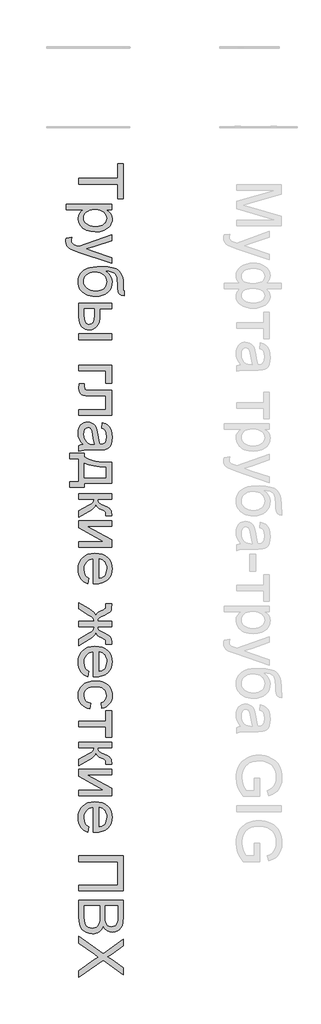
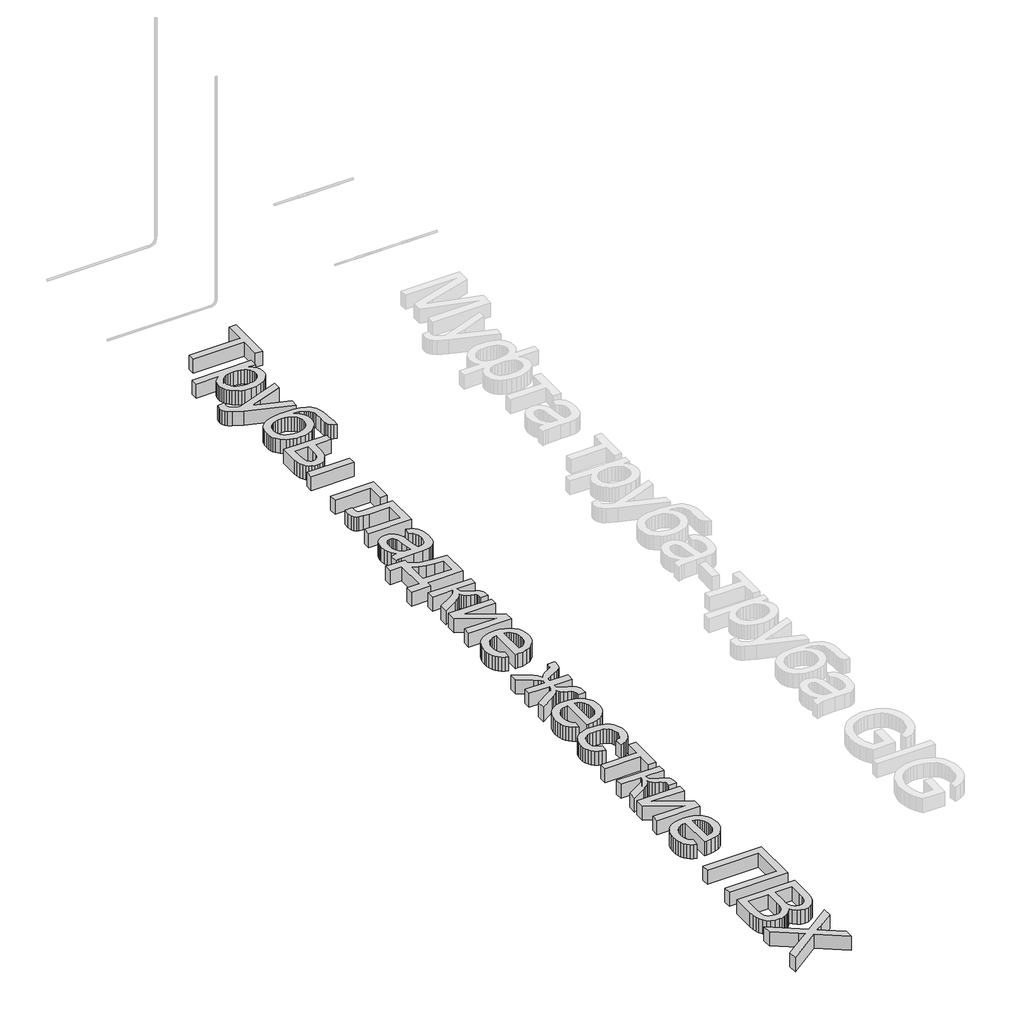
# One storey, part 11 of 33: 1 proxy.
"""IFC4 building model written with IfcOpenShell, lengths in millimetres."""

from ifc_helpers import new_model, si_unit, origin, origin_with_axes, place, context, project, spatial, polyline, outline, extrude, element, save

model = new_model("IFC4")

# Units and contexts
model_context = context("Model", 3, world=origin())
ifc_project = project(units=[si_unit("LENGTHUNIT", "METRE", prefix="MILLI")], contexts=[model_context])

# Site, building, storey
site = spatial("IfcSite", under=ifc_project)
building = spatial("IfcBuilding", under=site)
storey = spatial("IfcBuildingStorey", under=building, Name="Уровень 1", Elevation=0.0)

# Proxy
placement = place(None, origin())
element("IfcBuildingElementProxy", 1, Name="Надпись на модели 1", ObjectType="Надпись на модели 1", at=placement, inside=storey, context=model_context, shape_type="SweptSolid", body=[
    extrude(outline(polyline([(3124.4625724, -714.6440607), (3641.3856493, -714.6440607), (3641.3856493, -520.7979069), (3715.2318032, -520.7979069), (3715.2318032, -982.3363684), (3641.3856493, -982.3363684), (3641.3856493, -788.4902146), (3124.4625724, -788.4902146), (3124.4625724, -714.6440607)])), origin_with_axes(), (0.0, 0.0, 1.0), 150.0),
    extrude(outline(polyline([(2958.3087262, -1056.1825223), (3558.3087262, -1056.1825223), (3558.3087262, -1130.0286761), (3485.9048801, -1130.0286761), (3521.6200243, -1154.1152146), (3547.1308416, -1181.0863684), (3562.437332, -1212.5286761), (3567.5394955, -1250.0286761), (3565.7546397, -1275.7828829), (3560.4000724, -1299.96858), (3551.4757936, -1322.5857675), (3538.9818032, -1343.6344454), (3523.2426205, -1362.6548781), (3504.5827647, -1379.18733), (3483.0022359, -1393.2318011), (3458.5010339, -1404.7882915), (3404.0899762, -1420.2570415), (3344.702957, -1425.4132915), (3281.5479089, -1419.5899742), (3252.4718873, -1412.3108276), (3225.0635339, -1402.1200223), (3200.0394955, -1389.1572819), (3178.1164186, -1373.56233), (3159.2943032, -1355.3351665), (3143.5731493, -1334.4757915), (3131.1738104, -1312.007342), (3122.3171397, -1288.952955), (3117.0031373, -1265.3126305), (3115.2318032, -1241.0863684), (3119.9733897, -1207.1380511), (3134.1981493, -1176.8315607), (3155.6705051, -1150.8880511), (3182.1548801, -1130.0286761), (2958.3087262, -1130.0286761), (2958.3087262, -1056.1825223)]), holes=[polyline([(3337.9241109, -1130.0286761), (3302.3351686, -1132.0253708), (3271.7221878, -1138.015455), (3246.0851686, -1147.9989285), (3225.4241109, -1161.9757915), (3209.5226686, -1178.8012122), (3198.1644955, -1197.3303588), (3191.3495916, -1217.5632314), (3189.077957, -1239.49983), (3191.4307214, -1261.7519333), (3198.4890147, -1282.3543973), (3210.2528368, -1301.3072218), (3226.7221878, -1318.6104069), (3248.1314426, -1333.0289766), (3274.7149762, -1343.327955), (3306.4727887, -1349.507342), (3343.4048801, -1351.5671377), (3378.687332, -1349.5569213), (3409.2462262, -1343.5262723), (3435.0815628, -1333.4751906), (3456.1933416, -1319.4036761), (3472.5995916, -1302.5376906), (3484.3183416, -1284.1031954), (3491.3495916, -1264.1001906), (3493.6933416, -1242.5286761), (3491.2008537, -1221.0247699), (3483.7233897, -1200.7918973), (3471.2609498, -1181.8300583), (3453.8135339, -1164.1392531), (3431.6155171, -1149.2158756), (3404.9012743, -1138.5563204), (3373.6708056, -1132.1605872), (3337.9241109, -1130.0286761)])]), origin_with_axes(), (0.0, 0.0, 1.0), 150.0),
    extrude(outline(polyline([(2958.3087262, -1508.4902146), (3029.4144955, -1499.2594454), (3022.9241109, -1536.7594454), (3024.9613705, -1556.4830031), (3031.0731493, -1571.8075223), (3040.8267551, -1583.7426184), (3053.7894955, -1593.2979069), (3108.1644955, -1613.4902146), (3126.0491109, -1619.2594454), (3558.3087262, -1462.3363684), (3558.3087262, -1540.2209838), (3317.4433416, -1623.4421377), (3221.0971878, -1652.4325223), (3306.1933416, -1681.4229069), (3558.3087262, -1766.9517531), (3558.3087262, -1844.2594454), (3114.077957, -1693.24983), (3017.7318032, -1654.0190607), (2986.9745916, -1633.9349261), (2965.6644955, -1611.1825223), (2953.2245916, -1584.7522338), (2949.077957, -1553.6344454), (2951.3856493, -1532.2522338), (2958.3087262, -1508.4902146)])), origin_with_axes(), (0.0, 0.0, 1.0), 150.0),
    extrude(outline(polyline([(3724.4625724, -2210.0286761), (3724.4625724, -2274.6440607), (3689.3604089, -2267.6488684), (3666.8423801, -2255.6055992), (3653.5190628, -2238.9108877), (3646.0010339, -2217.9613684), (3642.5394955, -2183.8147338), (3641.3856493, -2127.5286761), (3637.1308416, -2052.4385319), (3631.812332, -2025.5349862), (3624.3664186, -2005.7257915), (3614.5767551, -1990.608604), (3602.2269955, -1977.78108), (3587.3171397, -1967.2432194), (3569.8471878, -1958.9950223), (3526.9745916, -1947.9433396), (3473.3568032, -1943.2017531), (3514.6068032, -1972.8952627), (3544.0298801, -2007.1680992), (3561.6620916, -2046.0563204), (3567.5394955, -2089.5959838), (3563.8030171, -2129.827354), (3552.593582, -2166.4349261), (3533.9111902, -2199.4187002), (3507.7558416, -2228.7786761), (3475.227296, -2252.8832434), (3437.4253128, -2270.1007915), (3394.3498921, -2280.4313204), (3346.0010339, -2283.87483), (3309.0148561, -2282.1665968), (3275.5082455, -2277.0418973), (3245.4812022, -2268.5007314), (3218.9337262, -2256.5430992), (3174.9613705, -2226.6693011), (3142.2750724, -2191.7113684), (3130.4436421, -2171.2666569), (3121.9926205, -2147.4325223), (3116.9220075, -2120.2089646), (3115.2318032, -2089.5959838), (3117.4087863, -2054.1828228), (3123.9397359, -2022.9433396), (3134.8246517, -1995.8775343), (3150.0635339, -1972.9854069), (3168.6963464, -1953.3925583), (3189.7630532, -1936.2245896), (3213.2636541, -1921.4815006), (3239.1981493, -1909.1632915), (3271.3841469, -1899.4457434), (3313.6392551, -1892.5046377), (3365.9634738, -1888.3399742), (3428.3568032, -1886.9517531), (3506.1107094, -1890.4538564), (3570.0455051, -1900.9601665), (3620.1611902, -1918.4706833), (3640.0368663, -1929.8525193), (3656.4577647, -1942.9854069), (3682.1714065, -1974.7657555), (3700.5382936, -2014.0731473), (3711.5584258, -2060.9075824), (3715.2318032, -2115.2690607), (3716.890457, -2197.4805992), (3719.6128128, -2205.5214646), (3724.4625724, -2210.0286761)]), holes=[polyline([(3348.3087262, -2210.0286761), (3378.8090267, -2208.0274742), (3406.4156974, -2202.0238684), (3431.1287383, -2192.0178588), (3452.9481493, -2178.0094454), (3470.774171, -2160.359205), (3483.5070436, -2139.4277146), (3491.1467671, -2115.2149742), (3493.6933416, -2087.7209838), (3491.0025363, -2059.0280752), (3482.9301205, -2033.8147338), (3469.476094, -2012.0809598), (3450.640457, -1993.8267531), (3427.3066229, -1979.3766329), (3400.3580051, -1969.0551184), (3369.7946037, -1962.8622098), (3335.6164186, -1960.7979069), (3302.1503729, -1963.0785559), (3272.8580051, -1969.9205031), (3247.7393152, -1981.3237482), (3226.7943032, -1997.2882915), (3210.2934017, -2016.5971857), (3198.5070436, -2038.0334838), (3191.4352287, -2061.5971857), (3189.077957, -2087.2882915), (3191.80482, -2113.3309598), (3199.9854089, -2136.7955031), (3213.6197238, -2157.6819213), (3232.7077647, -2175.9902146), (3256.2940027, -2190.8820415), (3283.4229089, -2201.5190607), (3314.0944835, -2207.9012723), (3348.3087262, -2210.0286761)])]), origin_with_axes(), (0.0, 0.0, 1.0), 150.0),
    extrude(outline(polyline([(3558.3087262, -2376.1825223), (3558.3087262, -2450.0286761), (3401.3856493, -2450.0286761), (3401.3856493, -2541.3267531), (3399.0734498, -2583.3384718), (3392.1368512, -2620.2390127), (3380.5758537, -2652.0283756), (3364.390457, -2678.7065607), (3344.1395556, -2699.8138324), (3320.3820436, -2714.890455), (3293.117921, -2723.9364285), (3262.3471878, -2726.9517531), (3234.8937623, -2724.4232074), (3209.5046397, -2716.8375704), (3186.17982, -2704.194842), (3164.9193032, -2686.4950223), (3147.2194835, -2663.242318), (3134.5767551, -2633.9409357), (3126.9911181, -2598.5908756), (3124.4625724, -2557.1921377), (3124.4625724, -2376.1825223), (3558.3087262, -2376.1825223)]), holes=[polyline([(3198.3087262, -2450.0286761), (3198.3087262, -2525.8940607), (3202.1849282, -2584.7041569), (3207.0301806, -2606.7263925), (3213.8135339, -2623.8267531), (3222.6521758, -2636.6362482), (3233.6632936, -2645.7858877), (3246.8468873, -2651.2756713), (3262.202957, -2653.1055992), (3286.3255532, -2647.6789165), (3307.6356493, -2631.3988684), (3316.343582, -2617.2687603), (3322.5635339, -2596.5851665), (3327.5394955, -2535.5575223), (3327.5394955, -2450.0286761), (3198.3087262, -2450.0286761)])]), origin_with_axes(), (0.0, 0.0, 1.0), 150.0),
    extrude(outline(polyline([(3558.3087262, -2782.3363684), (3558.3087262, -2856.1825223), (3124.4625724, -2856.1825223), (3124.4625724, -2782.3363684), (3558.3087262, -2782.3363684)])), origin_with_axes(), (0.0, 0.0, 1.0), 150.0),
    extrude(outline(polyline([(3558.3087262, -3197.7209838), (3558.3087262, -3437.7209838), (3484.4625724, -3437.7209838), (3484.4625724, -3271.5671377), (3124.4625724, -3271.5671377), (3124.4625724, -3197.7209838), (3558.3087262, -3197.7209838)])), origin_with_axes(), (0.0, 0.0, 1.0), 150.0),
    extrude(outline(polyline([(3558.3087262, -3530.0286761), (3558.3087262, -3862.3363684), (3124.8952647, -3862.3363684), (3124.8952647, -3788.4902146), (3484.4625724, -3788.4902146), (3484.4625724, -3603.87483), (3277.4914186, -3603.87483), (3217.4193032, -3602.6308396), (3182.0106493, -3598.8988684), (3160.3940628, -3589.577955), (3141.6981493, -3571.5671377), (3128.7714666, -3544.2354069), (3124.4625724, -3506.9517531), (3128.2125724, -3446.9517531), (3198.3087262, -3446.9517531), (3198.3087262, -3479.9805992), (3202.8519955, -3513.3700223), (3208.7293993, -3521.7173781), (3217.2750724, -3526.7113684), (3281.6741109, -3530.0286761), (3558.3087262, -3530.0286761)])), origin_with_axes(), (0.0, 0.0, 1.0), 150.0),
    extrude(outline(polyline([(3179.8471878, -4250.0286761), (3149.5947839, -4214.7462242), (3129.7991109, -4178.4180992), (3118.8736301, -4140.2149742), (3115.2318032, -4099.3075223), (3117.422308, -4066.4274141), (3123.9938224, -4037.5947819), (3134.9463464, -4012.8096256), (3150.2798801, -3992.0719454), (3169.0208657, -3975.6972458), (3190.1957455, -3964.0010319), (3213.8045195, -3956.9833035), (3239.8471878, -3954.6440607), (3270.4601686, -3958.1777146), (3298.2606493, -3968.7786761), (3322.0587262, -3985.1308396), (3340.6644955, -4005.9180992), (3354.7269955, -4030.3471857), (3364.8952647, -4057.62483), (3376.0010339, -4121.5190607), (3387.6837262, -4197.0238684), (3401.3856493, -4249.5959838), (3417.827957, -4250.0286761), (3450.7846878, -4244.9445415), (3462.9902166, -4238.5893732), (3472.3471878, -4229.6921377), (3481.6861301, -4214.3135319), (3488.3568032, -4195.5815607), (3493.6933416, -4148.0575223), (3490.1416589, -4104.0671377), (3479.4866109, -4073.3459838), (3459.781082, -4052.3964646), (3429.077957, -4037.7209838), (3438.3087262, -3963.87483), (3478.6933416, -3976.6933396), (3510.4241109, -3995.8219454), (3534.6909378, -4023.0455031), (3552.6837262, -4060.1488684), (3563.8255532, -4105.5274742), (3567.5394955, -4157.5767531), (3564.2582455, -4207.4986281), (3554.4144955, -4247.0719454), (3539.6128128, -4276.9096857), (3521.4577647, -4297.62483), (3499.0118512, -4311.3628107), (3471.3375724, -4320.2690607), (3406.7221878, -4323.87483), (3314.8471878, -4323.87483), (3186.5539186, -4327.62483), (3154.8411782, -4333.1777146), (3124.4625724, -4342.3363684), (3124.4625724, -4268.4902146), (3150.1356493, -4256.6632915), (3179.8471878, -4250.0286761)]), holes=[polyline([(3327.5394955, -4250.0286761), (3315.2438224, -4200.4132915), (3304.8952647, -4130.8940607), (3292.9241109, -4067.3604069), (3284.7390147, -4050.827955), (3273.452957, -4038.5863684), (3259.9313224, -4031.0142531), (3245.0394955, -4028.4902146), (3223.0803609, -4033.9890127), (3205.0875724, -4050.4854069), (3193.0803609, -4077.6188204), (3189.077957, -4115.0286761), (3193.4950243, -4154.6921377), (3206.7462262, -4189.7402146), (3226.2714666, -4218.1536761), (3249.5106493, -4237.9132915), (3273.452957, -4246.6753107), (3306.6260339, -4249.5959838), (3327.5394955, -4250.0286761)])]), origin_with_axes(), (0.0, 0.0, 1.0), 150.0),
    extrude(outline(polyline([(3558.3087262, -4490.0286761), (3558.3087262, -4766.9517531), (3198.3087262, -4766.9517531), (3198.3087262, -4822.3363684), (3004.4625724, -4822.3363684), (3004.4625724, -4748.4902146), (3124.4625724, -4748.4902146), (3124.4625724, -4443.87483), (3004.4625724, -4443.87483), (3004.4625724, -4370.0286761), (3198.3087262, -4370.0286761), (3198.3087262, -4416.1825223), (3226.1768152, -4434.2158756), (3258.9397359, -4449.734205), (3296.5974883, -4462.7375103), (3339.1500724, -4473.2257915), (3438.9397359, -4486.6572819), (3558.3087262, -4490.0286761)]), holes=[polyline([(3484.4625724, -4554.6440607), (3394.0479089, -4548.5863684), (3316.2173801, -4537.3363684), (3250.9709859, -4520.8940607), (3198.3087262, -4499.2594454), (3198.3087262, -4693.1055992), (3484.4625724, -4693.1055992), (3484.4625724, -4554.6440607)])]), origin_with_axes(), (0.0, 0.0, 1.0), 150.0),
    extrude(outline(polyline([(3558.3087262, -4905.4132915), (3558.3087262, -4979.2594454), (3373.6933416, -4979.2594454), (3377.0106493, -5009.2955031), (3386.9625724, -5028.7305992), (3412.9241109, -5045.9301184), (3464.2702647, -5069.2594454), (3506.2594474, -5088.0635319), (3530.9769955, -5102.93733), (3544.4445436, -5116.8195415), (3552.6837262, -5132.6488684), (3556.9024762, -5154.5539165), (3558.3087262, -5186.6632915), (3558.3087262, -5200.7979069), (3484.0298801, -5200.7979069), (3484.4625724, -5180.8940607), (3482.515457, -5157.8171377), (3476.6741109, -5144.8363684), (3460.4120916, -5134.3075223), (3428.0683416, -5119.4517531), (3395.6705051, -5103.8568011), (3375.4962262, -5089.6680992), (3362.0286782, -5072.4866088), (3349.7510339, -5047.9132915), (3339.3574041, -5071.3147338), (3321.0130532, -5094.49983), (3294.7179811, -5117.46858), (3260.4721878, -5140.2209838), (3124.4625724, -5219.2594454), (3124.4625724, -5135.3171377), (3257.5875724, -5057.8652146), (3293.0142551, -5036.9517531), (3313.9096878, -5018.9229069), (3324.1320436, -5000.7137723), (3327.5394955, -4979.2594454), (3124.4625724, -4979.2594454), (3124.4625724, -4905.4132915), (3558.3087262, -4905.4132915)])), origin_with_axes(), (0.0, 0.0, 1.0), 150.0),
    extrude(outline(polyline([(3558.3087262, -5265.4132915), (3558.3087262, -5339.2594454), (3227.4433416, -5339.2594454), (3558.3087262, -5520.7017531), (3558.3087262, -5616.1825223), (3124.4625724, -5616.1825223), (3124.4625724, -5542.3363684), (3453.3087262, -5542.3363684), (3124.4625724, -5362.0479069), (3124.4625724, -5265.4132915), (3558.3087262, -5265.4132915)])), origin_with_axes(), (0.0, 0.0, 1.0), 150.0),
    extrude(outline(polyline([(3253.6933416, -6030.7017531), (3244.4625724, -6103.1055992), (3215.4631734, -6092.0043372), (3189.9072839, -6077.0178588), (3167.7949041, -6058.1461641), (3149.1260339, -6035.3892531), (3134.297308, -6008.9815006), (3123.7053609, -5979.1572819), (3117.3501926, -5945.9165968), (3115.2318032, -5909.2594454), (3118.8871517, -5863.4391329), (3129.8531974, -5822.6128107), (3148.1299402, -5786.780479), (3173.7173801, -5755.9421377), (3205.9033777, -5731.1434598), (3243.9757936, -5713.4301184), (3287.9346277, -5702.8021136), (3337.7798801, -5699.2594454), (3389.3153368, -5702.8381713), (3434.7390147, -5713.5743492), (3474.0509137, -5731.467979), (3507.2510339, -5756.5190607), (3533.6272359, -5787.2762723), (3552.4673801, -5822.2882915), (3563.7714666, -5861.5551184), (3567.5394955, -5905.0767531), (3563.7804811, -5947.1966449), (3552.5034378, -5985.2870896), (3533.7083657, -6019.3480872), (3507.3952647, -6049.3796377), (3474.2672599, -6073.8943612), (3435.0274762, -6091.4048781), (3389.6759137, -6101.9111881), (3338.2125724, -6105.4132915), (3318.3087262, -6104.9805992), (3318.3087262, -5773.1055992), (3288.8405772, -5777.382943), (3263.0322839, -5785.8880511), (3240.8838464, -5798.6209237), (3222.3952647, -5815.5815607), (3207.8189426, -5835.8324622), (3197.4072839, -5858.4361281), (3191.1602887, -5883.3925583), (3189.077957, -5910.7017531), (3192.9361301, -5950.0046377), (3204.5106493, -5983.1055992), (3224.5226686, -6010.0046377), (3253.6933416, -6030.7017531)]), holes=[polyline([(3392.1548801, -5773.1055992), (3392.1548801, -6031.5671377), (3431.1693032, -6021.5791569), (3446.5118512, -6012.9884117), (3459.077957, -6001.99983), (3474.2221878, -5981.8616088), (3485.0394955, -5958.9469454), (3491.5298801, -5933.2558396), (3493.6933416, -5904.7882915), (3491.9670796, -5878.8222458), (3486.7882936, -5855.0106473), (3478.1569835, -5833.3534958), (3466.0731493, -5813.8507915), (3451.0956854, -5797.4851064), (3433.7834859, -5785.2390127), (3414.1365508, -5777.1125103), (3392.1548801, -5773.1055992)])]), origin_with_axes(), (0.0, 0.0, 1.0), 150.0),
    extrude(outline(polyline([(3558.3087262, -6677.7209838), (3373.6933416, -6677.7209838), (3377.4974282, -6703.7726665), (3388.9096878, -6720.7738684), (3416.2594474, -6737.1981473), (3467.8760339, -6761.5190607), (3517.0947839, -6786.9397338), (3533.1855291, -6798.811729), (3543.5971878, -6810.12483), (3554.6308416, -6838.2858877), (3558.3087262, -6879.2113684), (3558.3087262, -6908.4902146), (3484.0298801, -6908.4902146), (3484.4625724, -6888.1536761), (3482.5515147, -6863.7786761), (3476.8183416, -6850.0767531), (3460.8087262, -6839.1512723), (3428.9337262, -6823.6825223), (3396.8423801, -6807.7269934), (3376.4337262, -6793.0334838), (3362.4793993, -6775.0587242), (3349.7510339, -6749.2594454), (3339.3574041, -6773.5533156), (3321.0130532, -6797.5406954), (3294.7179811, -6821.2215848), (3260.4721878, -6844.5959838), (3124.4625724, -6926.9517531), (3124.4625724, -6842.2882915), (3258.5971878, -6761.2305992), (3293.8075243, -6739.0731473), (3314.3423801, -6719.9084838), (3324.2402166, -6700.5274742), (3327.5394955, -6677.7209838), (3124.4625724, -6677.7209838), (3124.4625724, -6603.87483), (3327.5394955, -6603.87483), (3324.312332, -6581.2486281), (3314.6308416, -6561.8315607), (3294.2402166, -6542.5226665), (3258.8856493, -6520.2209838), (3124.4625724, -6439.1632915), (3124.4625724, -6354.6440607), (3260.4721878, -6436.7113684), (3294.7179811, -6460.2840848), (3321.0130532, -6484.1272338), (3339.3574041, -6508.2408156), (3349.7510339, -6532.62483), (3363.8856493, -6504.4277146), (3379.1741109, -6486.1825223), (3406.0370916, -6469.5959838), (3454.8952647, -6446.37483), (3471.1572839, -6436.9637723), (3479.8471878, -6426.9036761), (3483.6332455, -6413.5983877), (3484.8952647, -6395.0286761), (3484.4625724, -6373.1055992), (3558.3087262, -6373.1055992), (3558.3087262, -6384.2113684), (3557.1548801, -6423.40608), (3553.6933416, -6448.9709838), (3546.4818032, -6466.7474261), (3534.077957, -6482.5767531), (3510.0274762, -6499.4156954), (3467.8760339, -6520.2209838), (3416.890457, -6544.2894934), (3389.4144955, -6560.5334838), (3377.6236301, -6577.5346857), (3373.6933416, -6603.87483), (3558.3087262, -6603.87483), (3558.3087262, -6677.7209838)])), origin_with_axes(), (0.0, 0.0, 1.0), 150.0),
    extrude(outline(polyline([(3253.6933416, -7267.62483), (3244.4625724, -7340.0286761), (3215.4631734, -7328.9274141), (3189.9072839, -7313.9409357), (3167.7949041, -7295.069241), (3149.1260339, -7272.31233), (3134.297308, -7245.9045776), (3123.7053609, -7216.0803588), (3117.3501926, -7182.8396737), (3115.2318032, -7146.1825223), (3118.8871517, -7100.3622098), (3129.8531974, -7059.5358877), (3148.1299402, -7023.7035559), (3173.7173801, -6992.8652146), (3205.9033777, -6968.0665367), (3243.9757936, -6950.3531954), (3287.9346277, -6939.7251906), (3337.7798801, -6936.1825223), (3389.3153368, -6939.7612482), (3434.7390147, -6950.4974261), (3474.0509137, -6968.3910559), (3507.2510339, -6993.4421377), (3533.6272359, -7024.1993492), (3552.4673801, -7059.2113684), (3563.7714666, -7098.4781954), (3567.5394955, -7141.99983), (3563.7804811, -7184.1197218), (3552.5034378, -7222.2101665), (3533.7083657, -7256.2711641), (3507.3952647, -7286.3027146), (3474.2672599, -7310.8174381), (3435.0274762, -7328.327955), (3389.6759137, -7338.8342651), (3338.2125724, -7342.3363684), (3318.3087262, -7341.9036761), (3318.3087262, -7010.0286761), (3288.8405772, -7014.3060199), (3263.0322839, -7022.8111281), (3240.8838464, -7035.5440006), (3222.3952647, -7052.5046377), (3207.8189426, -7072.7555391), (3197.4072839, -7095.359205), (3191.1602887, -7120.3156353), (3189.077957, -7147.62483), (3192.9361301, -7186.9277146), (3204.5106493, -7220.0286761), (3224.5226686, -7246.9277146), (3253.6933416, -7267.62483)]), holes=[polyline([(3392.1548801, -7010.0286761), (3392.1548801, -7268.4902146), (3431.1693032, -7258.5022338), (3446.5118512, -7249.9114886), (3459.077957, -7238.9229069), (3474.2221878, -7218.7846857), (3485.0394955, -7195.8700223), (3491.5298801, -7170.1789165), (3493.6933416, -7141.7113684), (3491.9670796, -7115.7453228), (3486.7882936, -7091.9337242), (3478.1569835, -7070.2765728), (3466.0731493, -7050.7738684), (3451.0956854, -7034.4081833), (3433.7834859, -7022.1620896), (3414.1365508, -7014.0355872), (3392.1548801, -7010.0286761)])]), origin_with_axes(), (0.0, 0.0, 1.0), 150.0),
    extrude(outline(polyline([(3281.3856493, -7693.1055992), (3272.1548801, -7766.9517531), (3237.3096277, -7758.9199021), (3206.4757936, -7746.3628107), (3179.6533777, -7729.280479), (3156.8423801, -7707.6729069), (3138.6377527, -7682.4505511), (3125.6344474, -7654.5238684), (3117.8324642, -7623.8928588), (3115.2318032, -7590.5575223), (3118.8601085, -7549.1407555), (3129.7450243, -7512.0058396), (3147.8865508, -7479.1527747), (3173.2846878, -7450.5815607), (3205.461671, -7427.4550583), (3243.9397359, -7410.9361281), (3288.7188825, -7401.0247699), (3339.7991109, -7397.7209838), (3405.5142551, -7403.3640127), (3435.08607, -7410.4177987), (3462.4673801, -7420.2930992), (3487.1083056, -7433.0575223), (3508.4589666, -7448.7786761), (3526.5193633, -7467.4565607), (3541.2894955, -7489.0911761), (3552.7738705, -7512.7044574), (3560.9769955, -7537.3183396), (3565.8988705, -7562.9328228), (3567.5394955, -7589.5479069), (3565.2858897, -7622.3108276), (3558.5250724, -7651.9457434), (3547.2570436, -7678.4526545), (3531.4818032, -7701.8315607), (3511.5599282, -7721.6858276), (3487.8519955, -7737.6188204), (3460.3580051, -7749.6305391), (3429.077957, -7757.7209838), (3419.8471878, -7683.87483), (3452.0647359, -7670.4793973), (3475.1596878, -7649.6200223), (3489.0599282, -7622.4505511), (3493.6933416, -7590.12483), (3491.4126926, -7565.0331833), (3484.5707455, -7542.4024742), (3473.1675003, -7522.2327026), (3457.202957, -7504.5238684), (3436.3075243, -7490.1052987), (3410.1116109, -7479.8063204), (3378.6152166, -7473.6269333), (3341.8183416, -7471.5671377), (3304.4670796, -7473.5818612), (3272.6056012, -7479.6260319), (3246.2339065, -7489.6996497), (3225.3519955, -7503.8027146), (3209.4821037, -7521.1599862), (3198.1464666, -7540.9962242), (3191.3450844, -7563.3114285), (3189.077957, -7588.1055992), (3194.7390147, -7626.3447819), (3201.8153368, -7642.881741), (3211.7221878, -7657.6969454), (3224.5677407, -7670.3757314), (3240.4601686, -7680.5034357), (3259.3994714, -7688.0800583), (3281.3856493, -7693.1055992)])), origin_with_axes(), (0.0, 0.0, 1.0), 150.0),
    extrude(outline(polyline([(3558.3087262, -7794.6440607), (3558.3087262, -8145.4132915), (3484.4625724, -8145.4132915), (3484.4625724, -8006.9517531), (3124.4625724, -8006.9517531), (3124.4625724, -7933.1055992), (3484.4625724, -7933.1055992), (3484.4625724, -7794.6440607), (3558.3087262, -7794.6440607)])), origin_with_axes(), (0.0, 0.0, 1.0), 150.0),
    extrude(outline(polyline([(3558.3087262, -8210.0286761), (3558.3087262, -8283.87483), (3373.6933416, -8283.87483), (3377.0106493, -8313.9108877), (3386.9625724, -8333.3459838), (3412.9241109, -8350.5455031), (3464.2702647, -8373.87483), (3506.2594474, -8392.6789165), (3530.9769955, -8407.5527146), (3544.4445436, -8421.4349261), (3552.6837262, -8437.2642531), (3556.9024762, -8459.1693011), (3558.3087262, -8491.2786761), (3558.3087262, -8505.4132915), (3484.0298801, -8505.4132915), (3484.4625724, -8485.5094454), (3482.515457, -8462.4325223), (3476.6741109, -8449.4517531), (3460.4120916, -8438.9229069), (3428.0683416, -8424.0671377), (3395.6705051, -8408.4721857), (3375.4962262, -8394.2834838), (3362.0286782, -8377.1019934), (3349.7510339, -8352.5286761), (3339.3574041, -8375.9301184), (3321.0130532, -8399.1152146), (3294.7179811, -8422.0839646), (3260.4721878, -8444.8363684), (3124.4625724, -8523.87483), (3124.4625724, -8439.9325223), (3257.5875724, -8362.4805992), (3293.0142551, -8341.5671377), (3313.9096878, -8323.5382915), (3324.1320436, -8305.3291569), (3327.5394955, -8283.87483), (3124.4625724, -8283.87483), (3124.4625724, -8210.0286761), (3558.3087262, -8210.0286761)])), origin_with_axes(), (0.0, 0.0, 1.0), 150.0),
    extrude(outline(polyline([(3558.3087262, -8570.0286761), (3558.3087262, -8643.87483), (3227.4433416, -8643.87483), (3558.3087262, -8825.3171377), (3558.3087262, -8920.7979069), (3124.4625724, -8920.7979069), (3124.4625724, -8846.9517531), (3453.3087262, -8846.9517531), (3124.4625724, -8666.6632915), (3124.4625724, -8570.0286761), (3558.3087262, -8570.0286761)])), origin_with_axes(), (0.0, 0.0, 1.0), 150.0),
    extrude(outline(polyline([(3253.6933416, -9335.3171377), (3244.4625724, -9407.7209838), (3215.4631734, -9396.6197218), (3189.9072839, -9381.6332434), (3167.7949041, -9362.7615487), (3149.1260339, -9340.0046377), (3134.297308, -9313.5968853), (3123.7053609, -9283.7726665), (3117.3501926, -9250.5319814), (3115.2318032, -9213.87483), (3118.8871517, -9168.0545175), (3129.8531974, -9127.2281954), (3148.1299402, -9091.3958636), (3173.7173801, -9060.5575223), (3205.9033777, -9035.7588444), (3243.9757936, -9018.0455031), (3287.9346277, -9007.4174982), (3337.7798801, -9003.87483), (3389.3153368, -9007.4535559), (3434.7390147, -9018.1897338), (3474.0509137, -9036.0833636), (3507.2510339, -9061.1344454), (3533.6272359, -9091.8916569), (3552.4673801, -9126.9036761), (3563.7714666, -9166.1705031), (3567.5394955, -9209.6921377), (3563.7804811, -9251.8120295), (3552.5034378, -9289.9024742), (3533.7083657, -9323.9634718), (3507.3952647, -9353.9950223), (3474.2672599, -9378.5097458), (3435.0274762, -9396.0202627), (3389.6759137, -9406.5265728), (3338.2125724, -9410.0286761), (3318.3087262, -9409.5959838), (3318.3087262, -9077.7209838), (3288.8405772, -9081.9983276), (3263.0322839, -9090.5034357), (3240.8838464, -9103.2363083), (3222.3952647, -9120.1969454), (3207.8189426, -9140.4478468), (3197.4072839, -9163.0515127), (3191.1602887, -9188.007943), (3189.077957, -9215.3171377), (3192.9361301, -9254.6200223), (3204.5106493, -9287.7209838), (3224.5226686, -9314.6200223), (3253.6933416, -9335.3171377)]), holes=[polyline([(3392.1548801, -9077.7209838), (3392.1548801, -9336.1825223), (3431.1693032, -9326.1945415), (3446.5118512, -9317.6037963), (3459.077957, -9306.6152146), (3474.2221878, -9286.4769934), (3485.0394955, -9263.56233), (3491.5298801, -9237.8712242), (3493.6933416, -9209.4036761), (3491.9670796, -9183.4376305), (3486.7882936, -9159.6260319), (3478.1569835, -9137.9688805), (3466.0731493, -9118.4661761), (3451.0956854, -9102.100491), (3433.7834859, -9089.8543973), (3414.1365508, -9081.7278949), (3392.1548801, -9077.7209838)])]), origin_with_axes(), (0.0, 0.0, 1.0), 150.0),
    extrude(outline(polyline([(3715.2318032, -9723.87483), (3715.2318032, -10185.4132915), (3124.4625724, -10185.4132915), (3124.4625724, -10111.5671377), (3641.3856493, -10111.5671377), (3641.3856493, -9797.7209838), (3124.4625724, -9797.7209838), (3124.4625724, -9723.87483), (3715.2318032, -9723.87483)])), origin_with_axes(), (0.0, 0.0, 1.0), 150.0),
    extrude(outline(polyline([(3124.4625724, -10314.6440607), (3715.2318032, -10314.6440607), (3715.2318032, -10540.0767531), (3710.8868512, -10602.077955), (3697.8519955, -10650.4854069), (3675.8027166, -10687.5887723), (3661.2759738, -10702.7600463), (3644.4144955, -10715.6777146), (3607.4914186, -10733.3640127), (3568.8375724, -10739.2594454), (3533.2666589, -10734.3015127), (3499.8231493, -10719.4277146), (3470.562332, -10694.5298781), (3447.5394955, -10659.49983), (3438.0382936, -10681.787991), (3425.6885339, -10701.3447819), (3410.4902166, -10718.1702026), (3392.4433416, -10732.2642531), (3372.0977887, -10743.4015728), (3350.0034378, -10751.3568011), (3326.1602887, -10756.1299381), (3300.5683416, -10757.7209838), (3259.3724282, -10753.3760319), (3221.1693032, -10740.3411761), (3188.6813224, -10720.8880511), (3164.6308416, -10697.2882915), (3147.2149762, -10668.3880511), (3134.6308416, -10633.0334838), (3127.0046397, -10590.0707434), (3124.4625724, -10538.3459838), (3124.4625724, -10314.6440607)]), holes=[polyline([(3475.2318032, -10388.4902146), (3475.2318032, -10523.3459838), (3476.8183416, -10570.5094454), (3481.577957, -10602.0959838), (3492.5214666, -10629.6620896), (3508.9096878, -10649.4757915), (3530.4902166, -10661.4289165), (3557.0106493, -10665.4132915), (3582.7558416, -10661.6993492), (3605.1837262, -10650.5575223), (3622.6897359, -10632.4926184), (3633.6693032, -10608.0094454), (3639.4565628, -10570.43733), (3641.3856493, -10513.1055992), (3641.3856493, -10388.4902146), (3475.2318032, -10388.4902146)]), polyline([(3198.3087262, -10388.4902146), (3198.3087262, -10539.9325223), (3201.1933416, -10594.7402146), (3207.593582, -10620.1789165), (3217.2750724, -10641.1104069), (3231.1392551, -10658.1296377), (3250.0875724, -10671.8315607), (3273.2726686, -10680.8640127), (3299.8471878, -10683.87483), (3330.7125724, -10680.3411761), (3357.2510339, -10669.7402146), (3378.0022359, -10651.2245896), (3391.5058416, -10623.9469454), (3398.9156974, -10585.3111281), (3401.3856493, -10532.7209838), (3401.3856493, -10388.4902146), (3198.3087262, -10388.4902146)])]), origin_with_axes(), (0.0, 0.0, 1.0), 150.0),
    extrude(outline(polyline([(3124.4625724, -10794.6440607), (3446.3856493, -11022.3844454), (3715.2318032, -10831.5671377), (3715.2318032, -10920.12483), (3563.9337262, -11027.5767531), (3525.6043993, -11053.2137723), (3504.9433416, -11063.7786761), (3564.9433416, -11106.1825223), (3715.2318032, -11212.4805992), (3715.2318032, -11302.3363684), (3445.5202647, -11111.5190607), (3124.4625724, -11339.2594454), (3124.4625724, -11250.7017531), (3338.5010339, -11098.9709838), (3382.9241109, -11067.3844454), (3334.1741109, -11032.62483), (3124.4625724, -10884.49983), (3124.4625724, -10794.6440607)])), origin_with_axes(), (0.0, 0.0, 1.0), 150.0),
])

save(model, "model.ifc")
